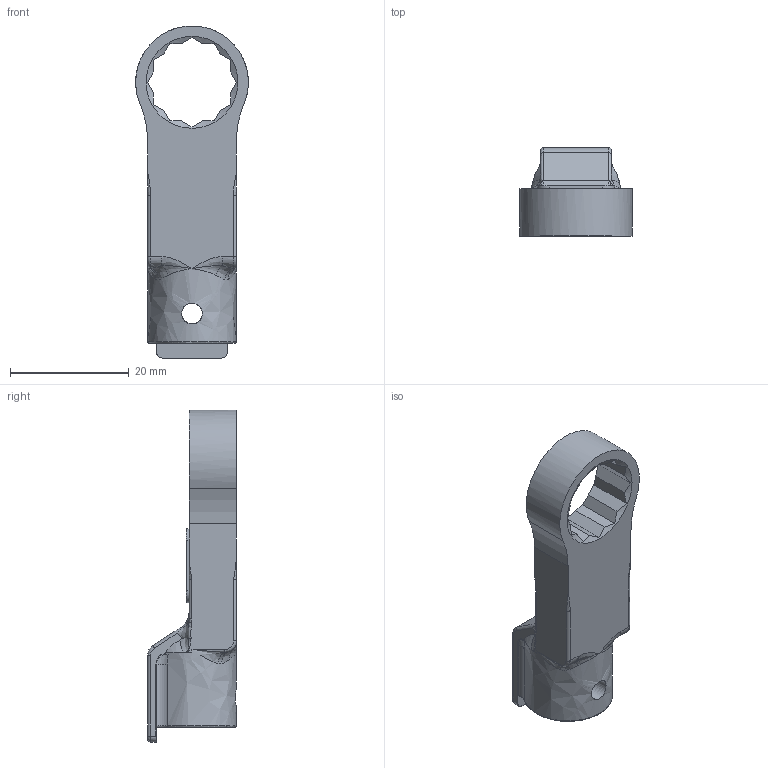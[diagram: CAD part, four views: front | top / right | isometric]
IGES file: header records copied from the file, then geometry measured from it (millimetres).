
Global section: file name: RH10DX13; native system: Autodesk Inventor 2016; preprocessor: unknown; author: Q600; date: 20151110.154922; units: millimetre
Bounding box: 19 x 15 x 56 mm (x, y, z)
Volume: 5425.9 mm3; surface area: 3420.3 mm2
Topology: 1 solids, 1 shells, 126 faces, 347 edges, 213 vertices
Faces by surface type: bspline 126
